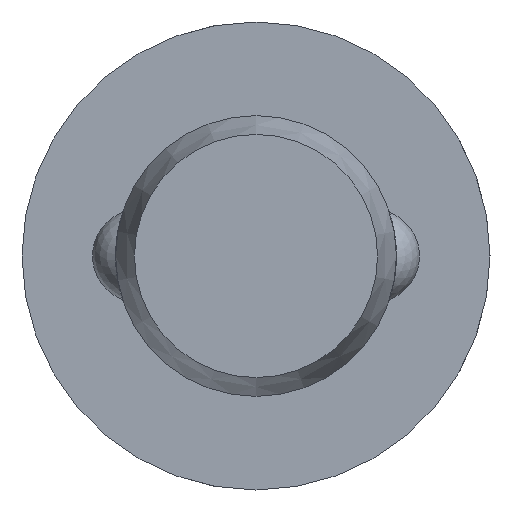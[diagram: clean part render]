
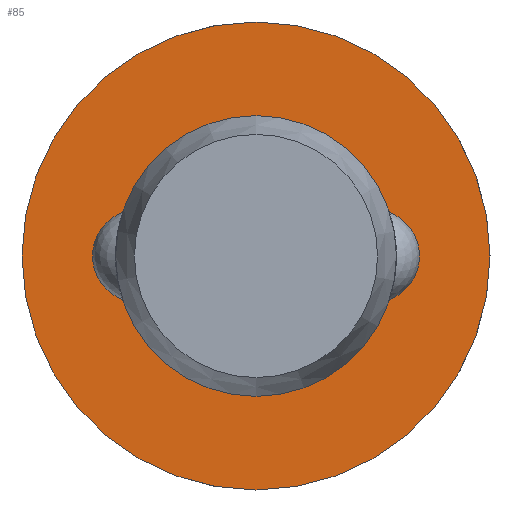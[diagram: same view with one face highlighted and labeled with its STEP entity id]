
A CAD part, left-side view. The second image highlights one B-rep face of the part: STEP entity #85.
In plain terms, the highlighted planar face has unit normal (-1, 0, 0).
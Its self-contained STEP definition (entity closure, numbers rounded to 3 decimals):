
#85 = ADVANCED_FACE( '', ( #131, #132 ), #133, .F. );
#131 = FACE_OUTER_BOUND( '', #204, .T. );
#132 = FACE_BOUND( '', #205, .T. );
#133 = PLANE( '', #206 );
#204 = EDGE_LOOP( '', ( #322 ) );
#205 = EDGE_LOOP( '', ( #323 ) );
#206 = AXIS2_PLACEMENT_3D( '', #324, #325, #326 );
#322 = ORIENTED_EDGE( '', *, *, #470, .F. );
#323 = ORIENTED_EDGE( '', *, *, #467, .T. );
#324 = CARTESIAN_POINT( '', ( 37., 3., 0. ) );
#325 = DIRECTION( '', ( 1., 0., 0. ) );
#326 = DIRECTION( '', ( 0., 0., -1. ) );
#467 = EDGE_CURVE( '', #541, #541, #542, .T. );
#470 = EDGE_CURVE( '', #547, #547, #548, .T. );
#541 = VERTEX_POINT( '', #749 );
#542 = CIRCLE( '', #750, 3. );
#547 = VERTEX_POINT( '', #817 );
#548 = CIRCLE( '', #818, 5. );
#749 = CARTESIAN_POINT( '', ( 37., 0., -3. ) );
#750 = AXIS2_PLACEMENT_3D( '', #897, #898, #899 );
#817 = CARTESIAN_POINT( '', ( 37., 0., -5. ) );
#818 = AXIS2_PLACEMENT_3D( '', #900, #901, #902 );
#897 = CARTESIAN_POINT( '', ( 37., 0., 0. ) );
#898 = DIRECTION( '', ( 1., 0., 0. ) );
#899 = DIRECTION( '', ( 0., 0., -1. ) );
#900 = CARTESIAN_POINT( '', ( 37., 0., 0. ) );
#901 = DIRECTION( '', ( 1., 0., 0. ) );
#902 = DIRECTION( '', ( 0., 0., -1. ) );
